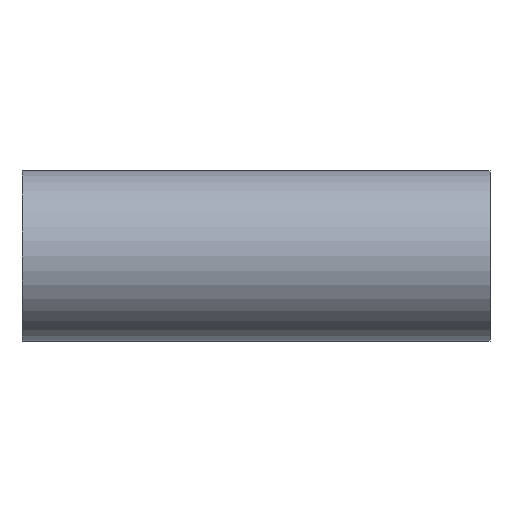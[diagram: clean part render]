
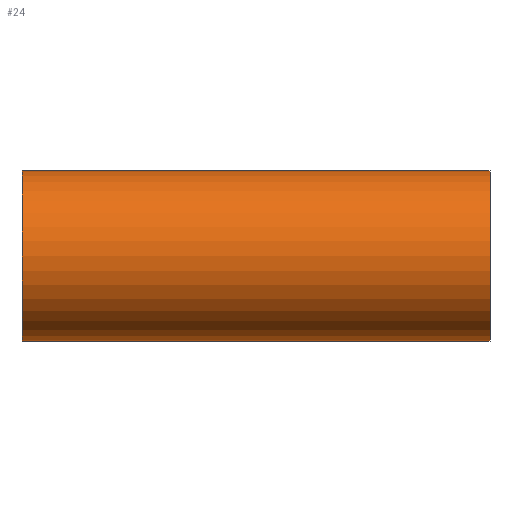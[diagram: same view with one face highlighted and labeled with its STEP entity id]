
A CAD part, front view. The second image highlights one B-rep face of the part: STEP entity #24.
In plain terms, the highlighted cylindrical face has radius 76.2 mm (diameter 152.4 mm), a partial arc.
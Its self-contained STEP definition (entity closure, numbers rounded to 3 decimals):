
#1 = CARTESIAN_POINT ( 'NONE',  ( 0., 0., 76.2 ) ) ;
#2 = VERTEX_POINT ( 'NONE', #50 ) ;
#8 = CARTESIAN_POINT ( 'NONE',  ( -101.6, 0., -76.2 ) ) ;
#10 = ORIENTED_EDGE ( 'NONE', *, *, #393, .T. ) ;
#13 = AXIS2_PLACEMENT_3D ( 'NONE', #192, #200, #212 ) ;
#17 = DIRECTION ( 'NONE',  ( 1., 0., 0. ) ) ;
#24 = ADVANCED_FACE ( 'NONE', ( #76 ), #181, .T. ) ;
#27 = VERTEX_POINT ( 'NONE', #44 ) ;
#28 = VERTEX_POINT ( 'NONE', #197 ) ;
#31 = EDGE_CURVE ( 'NONE', #27, #396, #92, .T. ) ;
#34 = ORIENTED_EDGE ( 'NONE', *, *, #232, .T. ) ;
#44 = CARTESIAN_POINT ( 'NONE',  ( -101.6, 0., -76.2 ) ) ;
#45 = EDGE_CURVE ( 'NONE', #348, #28, #275, .T. ) ;
#50 = CARTESIAN_POINT ( 'NONE',  ( 317.5, 0., -76.2 ) ) ;
#55 = ORIENTED_EDGE ( 'NONE', *, *, #45, .F. ) ;
#76 = FACE_OUTER_BOUND ( 'NONE', #280, .T. ) ;
#84 = VECTOR ( 'NONE', #415, 1000. ) ;
#92 = LINE ( 'NONE', #330, #169 ) ;
#102 = DIRECTION ( 'NONE',  ( 1., 0., 0. ) ) ;
#103 = AXIS2_PLACEMENT_3D ( 'NONE', #388, #155, #191 ) ;
#116 = DIRECTION ( 'NONE',  ( 0., 0., -1. ) ) ;
#120 = DIRECTION ( 'NONE',  ( 1., 0., 0. ) ) ;
#143 = CARTESIAN_POINT ( 'NONE',  ( -101.6, 0., 76.2 ) ) ;
#144 = VERTEX_POINT ( 'NONE', #143 ) ;
#155 = DIRECTION ( 'NONE',  ( -1., 0., 0. ) ) ;
#169 = VECTOR ( 'NONE', #298, 1000. ) ;
#177 = LINE ( 'NONE', #368, #262 ) ;
#181 = CYLINDRICAL_SURFACE ( 'NONE', #344, 76.2 ) ;
#191 = DIRECTION ( 'NONE',  ( 0., 0., -1. ) ) ;
#192 = CARTESIAN_POINT ( 'NONE',  ( -101.6, 0., 0. ) ) ;
#197 = CARTESIAN_POINT ( 'NONE',  ( 317.5, 0., 76.2 ) ) ;
#200 = DIRECTION ( 'NONE',  ( 1., 0., 0. ) ) ;
#201 = EDGE_CURVE ( 'NONE', #144, #348, #177, .T. ) ;
#212 = DIRECTION ( 'NONE',  ( 0., 0., -1. ) ) ;
#218 = CARTESIAN_POINT ( 'NONE',  ( -101.6, 0., 76.2 ) ) ;
#227 = VECTOR ( 'NONE', #102, 1000. ) ;
#232 = EDGE_CURVE ( 'NONE', #396, #2, #253, .T. ) ;
#234 = CARTESIAN_POINT ( 'NONE',  ( -101.6, 0., 0. ) ) ;
#239 = CARTESIAN_POINT ( 'NONE',  ( 0., 0., -76.2 ) ) ;
#253 = LINE ( 'NONE', #8, #227 ) ;
#262 = VECTOR ( 'NONE', #120, 1000. ) ;
#273 = EDGE_CURVE ( 'NONE', #2, #28, #445, .T. ) ;
#275 = LINE ( 'NONE', #218, #84 ) ;
#276 = CIRCLE ( 'NONE', #13, 76.2 ) ;
#280 = EDGE_LOOP ( 'NONE', ( #292, #10, #377, #34, #295, #55 ) ) ;
#292 = ORIENTED_EDGE ( 'NONE', *, *, #201, .F. ) ;
#295 = ORIENTED_EDGE ( 'NONE', *, *, #273, .T. ) ;
#298 = DIRECTION ( 'NONE',  ( 1., 0., 0. ) ) ;
#330 = CARTESIAN_POINT ( 'NONE',  ( -101.6, 0., -76.2 ) ) ;
#344 = AXIS2_PLACEMENT_3D ( 'NONE', #234, #17, #116 ) ;
#348 = VERTEX_POINT ( 'NONE', #1 ) ;
#368 = CARTESIAN_POINT ( 'NONE',  ( -101.6, 0., 76.2 ) ) ;
#377 = ORIENTED_EDGE ( 'NONE', *, *, #31, .T. ) ;
#388 = CARTESIAN_POINT ( 'NONE',  ( 317.5, 0., 0. ) ) ;
#393 = EDGE_CURVE ( 'NONE', #144, #27, #276, .T. ) ;
#396 = VERTEX_POINT ( 'NONE', #239 ) ;
#415 = DIRECTION ( 'NONE',  ( 1., 0., 0. ) ) ;
#445 = CIRCLE ( 'NONE', #103, 76.2 ) ;
